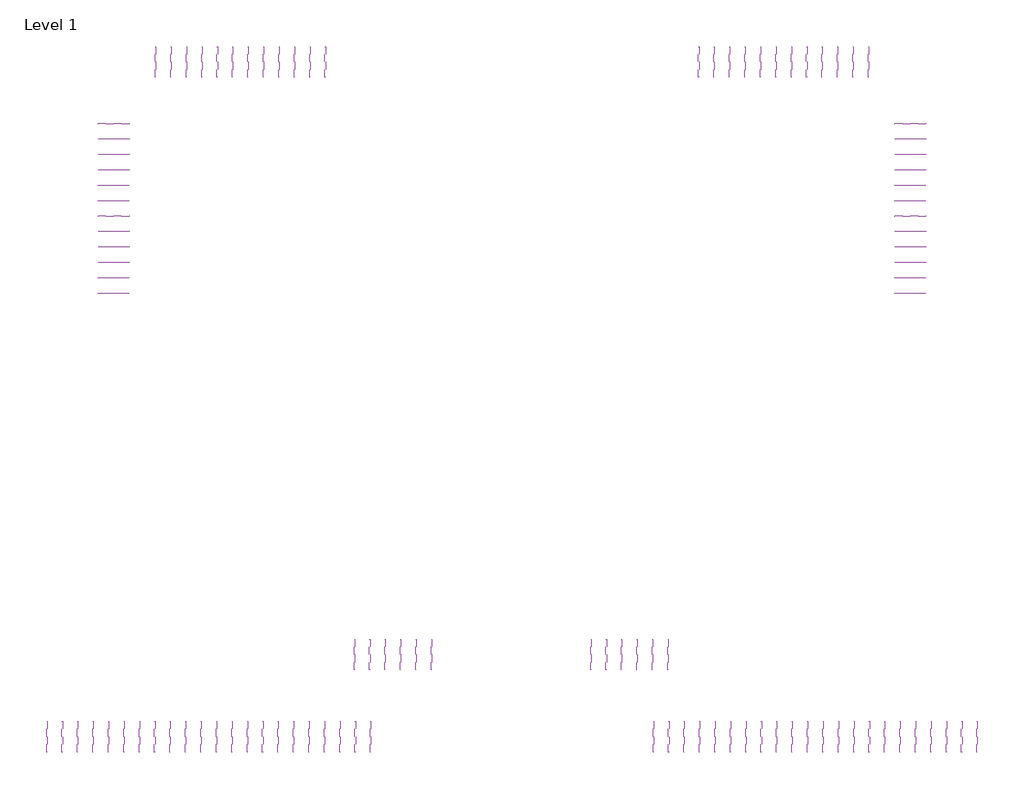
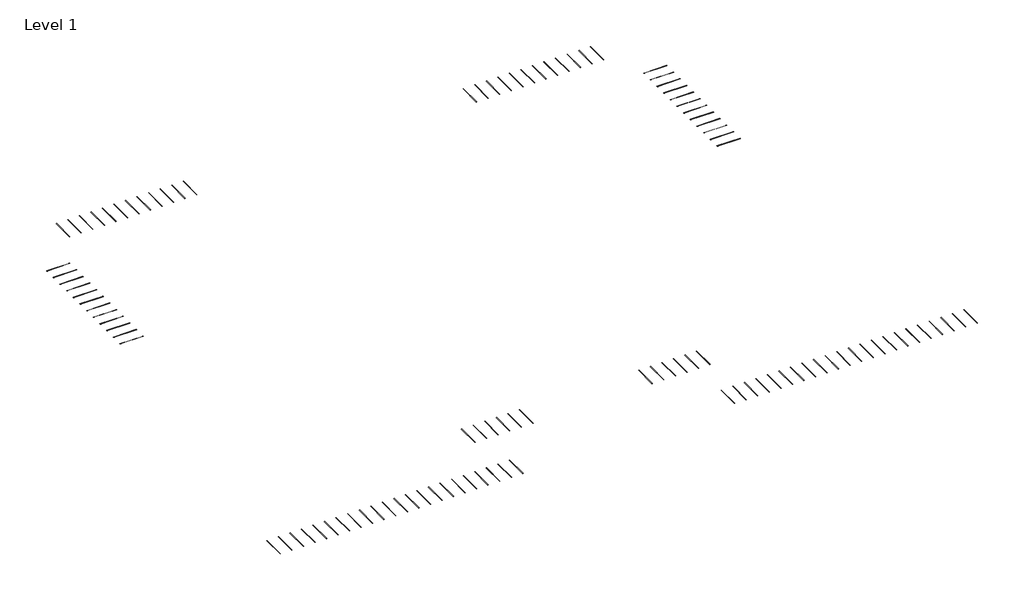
# One storey: 104 proxies.
"""IFC4 building model written with IfcOpenShell, lengths in millimetres."""

from ifc_helpers import new_model, si_unit, origin, place, context, project, spatial, transform, mapped, element, save
from components import parking_space_9_x_18_90_deg_9fe051ab, parking_space_9_x_18_90_deg_b8b21359

model = new_model("IFC4")

# Units and contexts
model_context = context("Model", 3, world=origin())
ifc_project = project(units=[si_unit("LENGTHUNIT", "METRE", prefix="MILLI")], contexts=[model_context])

# Site, building, storey
site = spatial("IfcSite", under=ifc_project)
building = spatial("IfcBuilding", under=site)
storey = spatial("IfcBuildingStorey", under=building, Name="Level 1", Elevation=0.0)

# Proxies
placement = place(None, origin())
parking_space_9_x_18_90_deg_shape = parking_space_9_x_18_90_deg_9fe051ab(model_context)
element("IfcBuildingElementProxy", 1, Name="Parking Space : 9' x 18' - 90 deg", ObjectType="Parking Space : 9' x 18' - 90 deg", at=placement, inside=storey, context=model_context, shape_type="MappedRepresentation", body=[
    mapped(parking_space_9_x_18_90_deg_shape, transform((-65226.6699122, -136687.5218987, 3048.7803686), x_axis=(-1.0, 0.0, 0.0), y_axis=(0.0, -1.0, 0.0), z_axis=(0.0, 0.0, 1.0))),
])
element("IfcBuildingElementProxy", 2, Name="Parking Space : 9' x 18' - 90 deg", ObjectType="Parking Space : 9' x 18' - 90 deg", at=placement, inside=storey, context=model_context, shape_type="MappedRepresentation", body=[
    mapped(parking_space_9_x_18_90_deg_shape, transform((-62483.4699122, -136687.5218987, 3048.7803686), x_axis=(-1.0, 0.0, 0.0), y_axis=(0.0, -1.0, 0.0), z_axis=(0.0, 0.0, 1.0))),
])
element("IfcBuildingElementProxy", 3, Name="Parking Space : 9' x 18' - 90 deg", ObjectType="Parking Space : 9' x 18' - 90 deg", at=placement, inside=storey, context=model_context, shape_type="MappedRepresentation", body=[
    mapped(parking_space_9_x_18_90_deg_shape, transform((-59740.2699122, -136687.5218987, 3048.7803686), x_axis=(-1.0, 0.0, 0.0), y_axis=(0.0, -1.0, 0.0), z_axis=(0.0, 0.0, 1.0))),
])
element("IfcBuildingElementProxy", 4, Name="Parking Space : 9' x 18' - 90 deg", ObjectType="Parking Space : 9' x 18' - 90 deg", at=placement, inside=storey, context=model_context, shape_type="MappedRepresentation", body=[
    mapped(parking_space_9_x_18_90_deg_shape, transform((-56997.0699122, -136687.5218987, 3048.7803686), x_axis=(-1.0, 0.0, 0.0), y_axis=(0.0, -1.0, 0.0), z_axis=(0.0, 0.0, 1.0))),
])
element("IfcBuildingElementProxy", 5, Name="Parking Space : 9' x 18' - 90 deg", ObjectType="Parking Space : 9' x 18' - 90 deg", at=placement, inside=storey, context=model_context, shape_type="MappedRepresentation", body=[
    mapped(parking_space_9_x_18_90_deg_shape, transform((-54253.8699122, -136687.5218987, 3048.7803686), x_axis=(-1.0, 0.0, 0.0), y_axis=(0.0, -1.0, 0.0), z_axis=(0.0, 0.0, 1.0))),
])
element("IfcBuildingElementProxy", 6, Name="Parking Space : 9' x 18' - 90 deg", ObjectType="Parking Space : 9' x 18' - 90 deg", at=placement, inside=storey, context=model_context, shape_type="MappedRepresentation", body=[
    mapped(parking_space_9_x_18_90_deg_shape, transform((-51510.6699122, -136687.5218987, 3048.7803686), x_axis=(-1.0, 0.0, 0.0), y_axis=(0.0, -1.0, 0.0), z_axis=(0.0, 0.0, 1.0))),
])
element("IfcBuildingElementProxy", 7, Name="Parking Space : 9' x 18' - 90 deg", ObjectType="Parking Space : 9' x 18' - 90 deg", at=placement, inside=storey, context=model_context, shape_type="MappedRepresentation", body=[
    mapped(parking_space_9_x_18_90_deg_shape, transform((-48767.4699122, -136687.5218987, 3048.7803686), x_axis=(-1.0, 0.0, 0.0), y_axis=(0.0, -1.0, 0.0), z_axis=(0.0, 0.0, 1.0))),
])
element("IfcBuildingElementProxy", 8, Name="Parking Space : 9' x 18' - 90 deg", ObjectType="Parking Space : 9' x 18' - 90 deg", at=placement, inside=storey, context=model_context, shape_type="MappedRepresentation", body=[
    mapped(parking_space_9_x_18_90_deg_shape, transform((-46024.2699122, -136687.5218987, 3048.7803686), x_axis=(-1.0, 0.0, 0.0), y_axis=(0.0, -1.0, 0.0), z_axis=(0.0, 0.0, 1.0))),
])
element("IfcBuildingElementProxy", 9, Name="Parking Space : 9' x 18' - 90 deg", ObjectType="Parking Space : 9' x 18' - 90 deg", at=placement, inside=storey, context=model_context, shape_type="MappedRepresentation", body=[
    mapped(parking_space_9_x_18_90_deg_shape, transform((-43281.0699122, -136687.5218987, 3048.7803686), x_axis=(-1.0, 0.0, 0.0), y_axis=(0.0, -1.0, 0.0), z_axis=(0.0, 0.0, 1.0))),
])
element("IfcBuildingElementProxy", 10, Name="Parking Space : 9' x 18' - 90 deg", ObjectType="Parking Space : 9' x 18' - 90 deg", at=placement, inside=storey, context=model_context, shape_type="MappedRepresentation", body=[
    mapped(parking_space_9_x_18_90_deg_shape, transform((-40537.8699122, -136687.5218987, 3048.7803686), x_axis=(-1.0, 0.0, 0.0), y_axis=(0.0, -1.0, 0.0), z_axis=(0.0, 0.0, 1.0))),
])
element("IfcBuildingElementProxy", 11, Name="Parking Space : 9' x 18' - 90 deg", ObjectType="Parking Space : 9' x 18' - 90 deg", at=placement, inside=storey, context=model_context, shape_type="MappedRepresentation", body=[
    mapped(parking_space_9_x_18_90_deg_shape, transform((-37794.6699122, -136687.5218987, 3048.7803686), x_axis=(-1.0, 0.0, 0.0), y_axis=(0.0, -1.0, 0.0), z_axis=(0.0, 0.0, 1.0))),
])
element("IfcBuildingElementProxy", 12, Name="Parking Space : 9' x 18' - 90 deg", ObjectType="Parking Space : 9' x 18' - 90 deg", at=placement, inside=storey, context=model_context, shape_type="MappedRepresentation", body=[
    mapped(parking_space_9_x_18_90_deg_shape, transform((-35051.4699122, -136687.5218987, 3048.7803686), x_axis=(-1.0, 0.0, 0.0), y_axis=(0.0, -1.0, 0.0), z_axis=(0.0, 0.0, 1.0))),
])
element("IfcBuildingElementProxy", 13, Name="Parking Space : 9' x 18' - 90 deg", ObjectType="Parking Space : 9' x 18' - 90 deg", at=placement, inside=storey, context=model_context, shape_type="MappedRepresentation", body=[
    mapped(parking_space_9_x_18_90_deg_shape, transform((-32308.2699122, -136687.5218987, 3048.7803686), x_axis=(-1.0, 0.0, 0.0), y_axis=(0.0, -1.0, 0.0), z_axis=(0.0, 0.0, 1.0))),
])
element("IfcBuildingElementProxy", 14, Name="Parking Space : 9' x 18' - 90 deg", ObjectType="Parking Space : 9' x 18' - 90 deg", at=placement, inside=storey, context=model_context, shape_type="MappedRepresentation", body=[
    mapped(parking_space_9_x_18_90_deg_shape, transform((-29565.0699122, -136687.5218987, 3048.7803686), x_axis=(-1.0, 0.0, 0.0), y_axis=(0.0, -1.0, 0.0), z_axis=(0.0, 0.0, 1.0))),
])
element("IfcBuildingElementProxy", 15, Name="Parking Space : 9' x 18' - 90 deg", ObjectType="Parking Space : 9' x 18' - 90 deg", at=placement, inside=storey, context=model_context, shape_type="MappedRepresentation", body=[
    mapped(parking_space_9_x_18_90_deg_shape, transform((-26821.8699122, -136687.5218987, 3048.7803686), x_axis=(-1.0, 0.0, 0.0), y_axis=(0.0, -1.0, 0.0), z_axis=(0.0, 0.0, 1.0))),
])
element("IfcBuildingElementProxy", 16, Name="Parking Space : 9' x 18' - 90 deg", ObjectType="Parking Space : 9' x 18' - 90 deg", at=placement, inside=storey, context=model_context, shape_type="MappedRepresentation", body=[
    mapped(parking_space_9_x_18_90_deg_shape, transform((-24078.6699122, -136687.5218987, 3048.7803686), x_axis=(-1.0, 0.0, 0.0), y_axis=(0.0, -1.0, 0.0), z_axis=(0.0, 0.0, 1.0))),
])
element("IfcBuildingElementProxy", 17, Name="Parking Space : 9' x 18' - 90 deg", ObjectType="Parking Space : 9' x 18' - 90 deg", at=placement, inside=storey, context=model_context, shape_type="MappedRepresentation", body=[
    mapped(parking_space_9_x_18_90_deg_shape, transform((-21335.4699122, -136687.5218987, 3048.7803686), x_axis=(-1.0, 0.0, 0.0), y_axis=(0.0, -1.0, 0.0), z_axis=(0.0, 0.0, 1.0))),
])
element("IfcBuildingElementProxy", 18, Name="Parking Space : 9' x 18' - 90 deg", ObjectType="Parking Space : 9' x 18' - 90 deg", at=placement, inside=storey, context=model_context, shape_type="MappedRepresentation", body=[
    mapped(parking_space_9_x_18_90_deg_shape, transform((-18592.2699122, -136687.5218987, 3048.7803686), x_axis=(-1.0, 0.0, 0.0), y_axis=(0.0, -1.0, 0.0), z_axis=(0.0, 0.0, 1.0))),
])
element("IfcBuildingElementProxy", 19, Name="Parking Space : 9' x 18' - 90 deg", ObjectType="Parking Space : 9' x 18' - 90 deg", at=placement, inside=storey, context=model_context, shape_type="MappedRepresentation", body=[
    mapped(parking_space_9_x_18_90_deg_shape, transform((-15849.0699122, -136687.5218987, 3048.7803686), x_axis=(-1.0, 0.0, 0.0), y_axis=(0.0, -1.0, 0.0), z_axis=(0.0, 0.0, 1.0))),
])
element("IfcBuildingElementProxy", 20, Name="Parking Space : 9' x 18' - 90 deg", ObjectType="Parking Space : 9' x 18' - 90 deg", at=placement, inside=storey, context=model_context, shape_type="MappedRepresentation", body=[
    mapped(parking_space_9_x_18_90_deg_shape, transform((-13105.8699122, -136687.5218987, 3048.7803686), x_axis=(-1.0, 0.0, 0.0), y_axis=(0.0, -1.0, 0.0), z_axis=(0.0, 0.0, 1.0))),
])
element("IfcBuildingElementProxy", 21, Name="Parking Space : 9' x 18' - 90 deg", ObjectType="Parking Space : 9' x 18' - 90 deg", at=placement, inside=storey, context=model_context, shape_type="MappedRepresentation", body=[
    mapped(parking_space_9_x_18_90_deg_shape, transform((-10362.6699122, -136687.5218987, 3048.7803686), x_axis=(-1.0, 0.0, 0.0), y_axis=(0.0, -1.0, 0.0), z_axis=(0.0, 0.0, 1.0))),
])
element("IfcBuildingElementProxy", 22, Name="Parking Space : 9' x 18' - 90 deg", ObjectType="Parking Space : 9' x 18' - 90 deg", at=placement, inside=storey, context=model_context, shape_type="MappedRepresentation", body=[
    mapped(parking_space_9_x_18_90_deg_shape, transform((-7619.4699122, -136687.5218987, 3048.7803686), x_axis=(-1.0, 0.0, 0.0), y_axis=(0.0, -1.0, 0.0), z_axis=(0.0, 0.0, 1.0))),
])
element("IfcBuildingElementProxy", 23, Name="Parking Space : 9' x 18' - 90 deg", ObjectType="Parking Space : 9' x 18' - 90 deg", at=placement, inside=storey, context=model_context, shape_type="MappedRepresentation", body=[
    mapped(parking_space_9_x_18_90_deg_shape, transform((-16753.158026, -60487.5218987, 3048.7803686), x_axis=(0.0, 1.0, 0.0), y_axis=(-1.0, 0.0, 0.0), z_axis=(0.0, 0.0, 1.0))),
])
element("IfcBuildingElementProxy", 24, Name="Parking Space : 9' x 18' - 90 deg", ObjectType="Parking Space : 9' x 18' - 90 deg", at=placement, inside=storey, context=model_context, shape_type="MappedRepresentation", body=[
    mapped(parking_space_9_x_18_90_deg_shape, transform((-16753.158026, -57744.3218987, 3048.7803686), x_axis=(0.0, 1.0, 0.0), y_axis=(-1.0, 0.0, 0.0), z_axis=(0.0, 0.0, 1.0))),
])
element("IfcBuildingElementProxy", 25, Name="Parking Space : 9' x 18' - 90 deg", ObjectType="Parking Space : 9' x 18' - 90 deg", at=placement, inside=storey, context=model_context, shape_type="MappedRepresentation", body=[
    mapped(parking_space_9_x_18_90_deg_shape, transform((-16753.158026, -55001.1218987, 3048.7803686), x_axis=(0.0, 1.0, 0.0), y_axis=(-1.0, 0.0, 0.0), z_axis=(0.0, 0.0, 1.0))),
])
element("IfcBuildingElementProxy", 26, Name="Parking Space : 9' x 18' - 90 deg", ObjectType="Parking Space : 9' x 18' - 90 deg", at=placement, inside=storey, context=model_context, shape_type="MappedRepresentation", body=[
    mapped(parking_space_9_x_18_90_deg_shape, transform((-16753.158026, -52257.9218987, 3048.7803686), x_axis=(0.0, 1.0, 0.0), y_axis=(-1.0, 0.0, 0.0), z_axis=(0.0, 0.0, 1.0))),
])
element("IfcBuildingElementProxy", 27, Name="Parking Space : 9' x 18' - 90 deg", ObjectType="Parking Space : 9' x 18' - 90 deg", at=placement, inside=storey, context=model_context, shape_type="MappedRepresentation", body=[
    mapped(parking_space_9_x_18_90_deg_shape, transform((-16753.158026, -49514.7218987, 3048.7803686), x_axis=(0.0, 1.0, 0.0), y_axis=(-1.0, 0.0, 0.0), z_axis=(0.0, 0.0, 1.0))),
])
element("IfcBuildingElementProxy", 28, Name="Parking Space : 9' x 18' - 90 deg", ObjectType="Parking Space : 9' x 18' - 90 deg", at=placement, inside=storey, context=model_context, shape_type="MappedRepresentation", body=[
    mapped(parking_space_9_x_18_90_deg_shape, transform((-16753.158026, -46771.5218987, 3048.7803686), x_axis=(0.0, 1.0, 0.0), y_axis=(-1.0, 0.0, 0.0), z_axis=(0.0, 0.0, 1.0))),
])
element("IfcBuildingElementProxy", 29, Name="Parking Space : 9' x 18' - 90 deg", ObjectType="Parking Space : 9' x 18' - 90 deg", at=placement, inside=storey, context=model_context, shape_type="MappedRepresentation", body=[
    mapped(parking_space_9_x_18_90_deg_shape, transform((-16753.158026, -44028.3218987, 3048.7803686), x_axis=(0.0, 1.0, 0.0), y_axis=(-1.0, 0.0, 0.0), z_axis=(0.0, 0.0, 1.0))),
])
element("IfcBuildingElementProxy", 30, Name="Parking Space : 9' x 18' - 90 deg", ObjectType="Parking Space : 9' x 18' - 90 deg", at=placement, inside=storey, context=model_context, shape_type="MappedRepresentation", body=[
    mapped(parking_space_9_x_18_90_deg_shape, transform((-16753.158026, -41285.1218987, 3048.7803686), x_axis=(0.0, 1.0, 0.0), y_axis=(-1.0, 0.0, 0.0), z_axis=(0.0, 0.0, 1.0))),
])
element("IfcBuildingElementProxy", 31, Name="Parking Space : 9' x 18' - 90 deg", ObjectType="Parking Space : 9' x 18' - 90 deg", at=placement, inside=storey, context=model_context, shape_type="MappedRepresentation", body=[
    mapped(parking_space_9_x_18_90_deg_shape, transform((-16753.158026, -38541.9218987, 3048.7803686), x_axis=(0.0, 1.0, 0.0), y_axis=(-1.0, 0.0, 0.0), z_axis=(0.0, 0.0, 1.0))),
])
element("IfcBuildingElementProxy", 32, Name="Parking Space : 9' x 18' - 90 deg", ObjectType="Parking Space : 9' x 18' - 90 deg", at=placement, inside=storey, context=model_context, shape_type="MappedRepresentation", body=[
    mapped(parking_space_9_x_18_90_deg_shape, transform((-16753.158026, -35798.7218987, 3048.7803686), x_axis=(0.0, 1.0, 0.0), y_axis=(-1.0, 0.0, 0.0), z_axis=(0.0, 0.0, 1.0))),
])
element("IfcBuildingElementProxy", 33, Name="Parking Space : 9' x 18' - 90 deg", ObjectType="Parking Space : 9' x 18' - 90 deg", at=placement, inside=storey, context=model_context, shape_type="MappedRepresentation", body=[
    mapped(parking_space_9_x_18_90_deg_shape, transform((-16753.158026, -33055.5218987, 3048.7803686), x_axis=(0.0, 1.0, 0.0), y_axis=(-1.0, 0.0, 0.0), z_axis=(0.0, 0.0, 1.0))),
])
element("IfcBuildingElementProxy", 34, Name="Parking Space : 9' x 18' - 90 deg", ObjectType="Parking Space : 9' x 18' - 90 deg", at=placement, inside=storey, context=model_context, shape_type="MappedRepresentation", body=[
    mapped(parking_space_9_x_18_90_deg_shape, transform((-16753.158026, -30312.3218987, 3048.7803686), x_axis=(0.0, 1.0, 0.0), y_axis=(-1.0, 0.0, 0.0), z_axis=(0.0, 0.0, 1.0))),
])
element("IfcBuildingElementProxy", 35, Name="Parking Space : 9' x 18' - 90 deg", ObjectType="Parking Space : 9' x 18' - 90 deg", at=placement, inside=storey, context=model_context, shape_type="MappedRepresentation", body=[
    mapped(parking_space_9_x_18_90_deg_shape, transform((-57139.158026, -16581.4741332, 3048.7803686), x_axis=(-1.0, 0.0, 0.0), y_axis=(0.0, -1.0, 0.0), z_axis=(0.0, 0.0, 1.0))),
])
element("IfcBuildingElementProxy", 36, Name="Parking Space : 9' x 18' - 90 deg", ObjectType="Parking Space : 9' x 18' - 90 deg", at=placement, inside=storey, context=model_context, shape_type="MappedRepresentation", body=[
    mapped(parking_space_9_x_18_90_deg_shape, transform((-54395.958026, -16581.4741332, 3048.7803686), x_axis=(-1.0, 0.0, 0.0), y_axis=(0.0, -1.0, 0.0), z_axis=(0.0, 0.0, 1.0))),
])
element("IfcBuildingElementProxy", 37, Name="Parking Space : 9' x 18' - 90 deg", ObjectType="Parking Space : 9' x 18' - 90 deg", at=placement, inside=storey, context=model_context, shape_type="MappedRepresentation", body=[
    mapped(parking_space_9_x_18_90_deg_shape, transform((-51652.758026, -16581.4741332, 3048.7803686), x_axis=(-1.0, 0.0, 0.0), y_axis=(0.0, -1.0, 0.0), z_axis=(0.0, 0.0, 1.0))),
])
element("IfcBuildingElementProxy", 38, Name="Parking Space : 9' x 18' - 90 deg", ObjectType="Parking Space : 9' x 18' - 90 deg", at=placement, inside=storey, context=model_context, shape_type="MappedRepresentation", body=[
    mapped(parking_space_9_x_18_90_deg_shape, transform((-48909.558026, -16581.4741332, 3048.7803686), x_axis=(-1.0, 0.0, 0.0), y_axis=(0.0, -1.0, 0.0), z_axis=(0.0, 0.0, 1.0))),
])
element("IfcBuildingElementProxy", 39, Name="Parking Space : 9' x 18' - 90 deg", ObjectType="Parking Space : 9' x 18' - 90 deg", at=placement, inside=storey, context=model_context, shape_type="MappedRepresentation", body=[
    mapped(parking_space_9_x_18_90_deg_shape, transform((-46166.358026, -16581.4741332, 3048.7803686), x_axis=(-1.0, 0.0, 0.0), y_axis=(0.0, -1.0, 0.0), z_axis=(0.0, 0.0, 1.0))),
])
element("IfcBuildingElementProxy", 40, Name="Parking Space : 9' x 18' - 90 deg", ObjectType="Parking Space : 9' x 18' - 90 deg", at=placement, inside=storey, context=model_context, shape_type="MappedRepresentation", body=[
    mapped(parking_space_9_x_18_90_deg_shape, transform((-43423.158026, -16581.4741332, 3048.7803686), x_axis=(-1.0, 0.0, 0.0), y_axis=(0.0, -1.0, 0.0), z_axis=(0.0, 0.0, 1.0))),
])
element("IfcBuildingElementProxy", 41, Name="Parking Space : 9' x 18' - 90 deg", ObjectType="Parking Space : 9' x 18' - 90 deg", at=placement, inside=storey, context=model_context, shape_type="MappedRepresentation", body=[
    mapped(parking_space_9_x_18_90_deg_shape, transform((-40679.958026, -16581.4741332, 3048.7803686), x_axis=(-1.0, 0.0, 0.0), y_axis=(0.0, -1.0, 0.0), z_axis=(0.0, 0.0, 1.0))),
])
element("IfcBuildingElementProxy", 42, Name="Parking Space : 9' x 18' - 90 deg", ObjectType="Parking Space : 9' x 18' - 90 deg", at=placement, inside=storey, context=model_context, shape_type="MappedRepresentation", body=[
    mapped(parking_space_9_x_18_90_deg_shape, transform((-37936.758026, -16581.4741332, 3048.7803686), x_axis=(-1.0, 0.0, 0.0), y_axis=(0.0, -1.0, 0.0), z_axis=(0.0, 0.0, 1.0))),
])
element("IfcBuildingElementProxy", 43, Name="Parking Space : 9' x 18' - 90 deg", ObjectType="Parking Space : 9' x 18' - 90 deg", at=placement, inside=storey, context=model_context, shape_type="MappedRepresentation", body=[
    mapped(parking_space_9_x_18_90_deg_shape, transform((-35193.558026, -16581.4741332, 3048.7803686), x_axis=(-1.0, 0.0, 0.0), y_axis=(0.0, -1.0, 0.0), z_axis=(0.0, 0.0, 1.0))),
])
element("IfcBuildingElementProxy", 44, Name="Parking Space : 9' x 18' - 90 deg", ObjectType="Parking Space : 9' x 18' - 90 deg", at=placement, inside=storey, context=model_context, shape_type="MappedRepresentation", body=[
    mapped(parking_space_9_x_18_90_deg_shape, transform((-32450.358026, -16581.4741332, 3048.7803686), x_axis=(-1.0, 0.0, 0.0), y_axis=(0.0, -1.0, 0.0), z_axis=(0.0, 0.0, 1.0))),
])
element("IfcBuildingElementProxy", 45, Name="Parking Space : 9' x 18' - 90 deg", ObjectType="Parking Space : 9' x 18' - 90 deg", at=placement, inside=storey, context=model_context, shape_type="MappedRepresentation", body=[
    mapped(parking_space_9_x_18_90_deg_shape, transform((-29707.158026, -16581.4741332, 3048.7803686), x_axis=(-1.0, 0.0, 0.0), y_axis=(0.0, -1.0, 0.0), z_axis=(0.0, 0.0, 1.0))),
])
element("IfcBuildingElementProxy", 46, Name="Parking Space : 9' x 18' - 90 deg", ObjectType="Parking Space : 9' x 18' - 90 deg", at=placement, inside=storey, context=model_context, shape_type="MappedRepresentation", body=[
    mapped(parking_space_9_x_18_90_deg_shape, transform((-26963.958026, -16581.4741332, 3048.7803686), x_axis=(-1.0, 0.0, 0.0), y_axis=(0.0, -1.0, 0.0), z_axis=(0.0, 0.0, 1.0))),
])
parking_space_9_x_18_90_deg_2_shape = parking_space_9_x_18_90_deg_b8b21359(model_context)
element("IfcBuildingElementProxy", 47, Name="Parking Space : 9' x 18' - 90 deg", ObjectType="Parking Space : 9' x 18' - 90 deg", at=placement, inside=storey, context=model_context, shape_type="MappedRepresentation", body=[
    mapped(parking_space_9_x_18_90_deg_2_shape, transform((-104687.958026, -122057.1218987, 3048.7803686), x_axis=(1.0, 0.0, 0.0), y_axis=(0.0, 1.0, 0.0), z_axis=(0.0, 0.0, 1.0))),
])
element("IfcBuildingElementProxy", 48, Name="Parking Space : 9' x 18' - 90 deg", ObjectType="Parking Space : 9' x 18' - 90 deg", at=placement, inside=storey, context=model_context, shape_type="MappedRepresentation", body=[
    mapped(parking_space_9_x_18_90_deg_2_shape, transform((-115498.0461398, -136687.5218987, 3048.7803686), x_axis=(1.0, 0.0, 0.0), y_axis=(0.0, 1.0, 0.0), z_axis=(0.0, 0.0, 1.0))),
])
element("IfcBuildingElementProxy", 49, Name="Parking Space : 9' x 18' - 90 deg", ObjectType="Parking Space : 9' x 18' - 90 deg", at=placement, inside=storey, context=model_context, shape_type="MappedRepresentation", body=[
    mapped(parking_space_9_x_18_90_deg_2_shape, transform((-118241.2461398, -136687.5218987, 3048.7803686), x_axis=(1.0, 0.0, 0.0), y_axis=(0.0, 1.0, 0.0), z_axis=(0.0, 0.0, 1.0))),
])
element("IfcBuildingElementProxy", 50, Name="Parking Space : 9' x 18' - 90 deg", ObjectType="Parking Space : 9' x 18' - 90 deg", at=placement, inside=storey, context=model_context, shape_type="MappedRepresentation", body=[
    mapped(parking_space_9_x_18_90_deg_2_shape, transform((-120984.4461398, -136687.5218987, 3048.7803686), x_axis=(1.0, 0.0, 0.0), y_axis=(0.0, 1.0, 0.0), z_axis=(0.0, 0.0, 1.0))),
])
element("IfcBuildingElementProxy", 51, Name="Parking Space : 9' x 18' - 90 deg", ObjectType="Parking Space : 9' x 18' - 90 deg", at=placement, inside=storey, context=model_context, shape_type="MappedRepresentation", body=[
    mapped(parking_space_9_x_18_90_deg_2_shape, transform((-123727.6461398, -136687.5218987, 3048.7803686), x_axis=(1.0, 0.0, 0.0), y_axis=(0.0, 1.0, 0.0), z_axis=(0.0, 0.0, 1.0))),
])
element("IfcBuildingElementProxy", 52, Name="Parking Space : 9' x 18' - 90 deg", ObjectType="Parking Space : 9' x 18' - 90 deg", at=placement, inside=storey, context=model_context, shape_type="MappedRepresentation", body=[
    mapped(parking_space_9_x_18_90_deg_2_shape, transform((-126470.8461398, -136687.5218987, 3048.7803686), x_axis=(1.0, 0.0, 0.0), y_axis=(0.0, 1.0, 0.0), z_axis=(0.0, 0.0, 1.0))),
])
element("IfcBuildingElementProxy", 53, Name="Parking Space : 9' x 18' - 90 deg", ObjectType="Parking Space : 9' x 18' - 90 deg", at=placement, inside=storey, context=model_context, shape_type="MappedRepresentation", body=[
    mapped(parking_space_9_x_18_90_deg_2_shape, transform((-129214.0461398, -136687.5218987, 3048.7803686), x_axis=(1.0, 0.0, 0.0), y_axis=(0.0, 1.0, 0.0), z_axis=(0.0, 0.0, 1.0))),
])
element("IfcBuildingElementProxy", 54, Name="Parking Space : 9' x 18' - 90 deg", ObjectType="Parking Space : 9' x 18' - 90 deg", at=placement, inside=storey, context=model_context, shape_type="MappedRepresentation", body=[
    mapped(parking_space_9_x_18_90_deg_2_shape, transform((-131957.2461398, -136687.5218987, 3048.7803686), x_axis=(1.0, 0.0, 0.0), y_axis=(0.0, 1.0, 0.0), z_axis=(0.0, 0.0, 1.0))),
])
element("IfcBuildingElementProxy", 55, Name="Parking Space : 9' x 18' - 90 deg", ObjectType="Parking Space : 9' x 18' - 90 deg", at=placement, inside=storey, context=model_context, shape_type="MappedRepresentation", body=[
    mapped(parking_space_9_x_18_90_deg_2_shape, transform((-134700.4461398, -136687.5218987, 3048.7803686), x_axis=(1.0, 0.0, 0.0), y_axis=(0.0, 1.0, 0.0), z_axis=(0.0, 0.0, 1.0))),
])
element("IfcBuildingElementProxy", 56, Name="Parking Space : 9' x 18' - 90 deg", ObjectType="Parking Space : 9' x 18' - 90 deg", at=placement, inside=storey, context=model_context, shape_type="MappedRepresentation", body=[
    mapped(parking_space_9_x_18_90_deg_2_shape, transform((-137443.6461398, -136687.5218987, 3048.7803686), x_axis=(1.0, 0.0, 0.0), y_axis=(0.0, 1.0, 0.0), z_axis=(0.0, 0.0, 1.0))),
])
element("IfcBuildingElementProxy", 57, Name="Parking Space : 9' x 18' - 90 deg", ObjectType="Parking Space : 9' x 18' - 90 deg", at=placement, inside=storey, context=model_context, shape_type="MappedRepresentation", body=[
    mapped(parking_space_9_x_18_90_deg_2_shape, transform((-140186.8461398, -136687.5218987, 3048.7803686), x_axis=(1.0, 0.0, 0.0), y_axis=(0.0, 1.0, 0.0), z_axis=(0.0, 0.0, 1.0))),
])
element("IfcBuildingElementProxy", 58, Name="Parking Space : 9' x 18' - 90 deg", ObjectType="Parking Space : 9' x 18' - 90 deg", at=placement, inside=storey, context=model_context, shape_type="MappedRepresentation", body=[
    mapped(parking_space_9_x_18_90_deg_2_shape, transform((-142930.0461398, -136687.5218987, 3048.7803686), x_axis=(1.0, 0.0, 0.0), y_axis=(0.0, 1.0, 0.0), z_axis=(0.0, 0.0, 1.0))),
])
element("IfcBuildingElementProxy", 59, Name="Parking Space : 9' x 18' - 90 deg", ObjectType="Parking Space : 9' x 18' - 90 deg", at=placement, inside=storey, context=model_context, shape_type="MappedRepresentation", body=[
    mapped(parking_space_9_x_18_90_deg_2_shape, transform((-145673.2461398, -136687.5218987, 3048.7803686), x_axis=(1.0, 0.0, 0.0), y_axis=(0.0, 1.0, 0.0), z_axis=(0.0, 0.0, 1.0))),
])
element("IfcBuildingElementProxy", 60, Name="Parking Space : 9' x 18' - 90 deg", ObjectType="Parking Space : 9' x 18' - 90 deg", at=placement, inside=storey, context=model_context, shape_type="MappedRepresentation", body=[
    mapped(parking_space_9_x_18_90_deg_2_shape, transform((-148416.4461398, -136687.5218987, 3048.7803686), x_axis=(1.0, 0.0, 0.0), y_axis=(0.0, 1.0, 0.0), z_axis=(0.0, 0.0, 1.0))),
])
element("IfcBuildingElementProxy", 61, Name="Parking Space : 9' x 18' - 90 deg", ObjectType="Parking Space : 9' x 18' - 90 deg", at=placement, inside=storey, context=model_context, shape_type="MappedRepresentation", body=[
    mapped(parking_space_9_x_18_90_deg_2_shape, transform((-151159.6461398, -136687.5218987, 3048.7803686), x_axis=(1.0, 0.0, 0.0), y_axis=(0.0, 1.0, 0.0), z_axis=(0.0, 0.0, 1.0))),
])
element("IfcBuildingElementProxy", 62, Name="Parking Space : 9' x 18' - 90 deg", ObjectType="Parking Space : 9' x 18' - 90 deg", at=placement, inside=storey, context=model_context, shape_type="MappedRepresentation", body=[
    mapped(parking_space_9_x_18_90_deg_2_shape, transform((-153902.8461398, -136687.5218987, 3048.7803686), x_axis=(1.0, 0.0, 0.0), y_axis=(0.0, 1.0, 0.0), z_axis=(0.0, 0.0, 1.0))),
])
element("IfcBuildingElementProxy", 63, Name="Parking Space : 9' x 18' - 90 deg", ObjectType="Parking Space : 9' x 18' - 90 deg", at=placement, inside=storey, context=model_context, shape_type="MappedRepresentation", body=[
    mapped(parking_space_9_x_18_90_deg_2_shape, transform((-156646.0461398, -136687.5218987, 3048.7803686), x_axis=(1.0, 0.0, 0.0), y_axis=(0.0, 1.0, 0.0), z_axis=(0.0, 0.0, 1.0))),
])
element("IfcBuildingElementProxy", 64, Name="Parking Space : 9' x 18' - 90 deg", ObjectType="Parking Space : 9' x 18' - 90 deg", at=placement, inside=storey, context=model_context, shape_type="MappedRepresentation", body=[
    mapped(parking_space_9_x_18_90_deg_2_shape, transform((-159389.2461398, -136687.5218987, 3048.7803686), x_axis=(1.0, 0.0, 0.0), y_axis=(0.0, 1.0, 0.0), z_axis=(0.0, 0.0, 1.0))),
])
element("IfcBuildingElementProxy", 65, Name="Parking Space : 9' x 18' - 90 deg", ObjectType="Parking Space : 9' x 18' - 90 deg", at=placement, inside=storey, context=model_context, shape_type="MappedRepresentation", body=[
    mapped(parking_space_9_x_18_90_deg_2_shape, transform((-162132.4461398, -136687.5218987, 3048.7803686), x_axis=(1.0, 0.0, 0.0), y_axis=(0.0, 1.0, 0.0), z_axis=(0.0, 0.0, 1.0))),
])
element("IfcBuildingElementProxy", 66, Name="Parking Space : 9' x 18' - 90 deg", ObjectType="Parking Space : 9' x 18' - 90 deg", at=placement, inside=storey, context=model_context, shape_type="MappedRepresentation", body=[
    mapped(parking_space_9_x_18_90_deg_2_shape, transform((-164875.6461398, -136687.5218987, 3048.7803686), x_axis=(1.0, 0.0, 0.0), y_axis=(0.0, 1.0, 0.0), z_axis=(0.0, 0.0, 1.0))),
])
element("IfcBuildingElementProxy", 67, Name="Parking Space : 9' x 18' - 90 deg", ObjectType="Parking Space : 9' x 18' - 90 deg", at=placement, inside=storey, context=model_context, shape_type="MappedRepresentation", body=[
    mapped(parking_space_9_x_18_90_deg_2_shape, transform((-167618.8461398, -136687.5218987, 3048.7803686), x_axis=(1.0, 0.0, 0.0), y_axis=(0.0, 1.0, 0.0), z_axis=(0.0, 0.0, 1.0))),
])
element("IfcBuildingElementProxy", 68, Name="Parking Space : 9' x 18' - 90 deg", ObjectType="Parking Space : 9' x 18' - 90 deg", at=placement, inside=storey, context=model_context, shape_type="MappedRepresentation", body=[
    mapped(parking_space_9_x_18_90_deg_2_shape, transform((-170362.0461398, -136687.5218987, 3048.7803686), x_axis=(1.0, 0.0, 0.0), y_axis=(0.0, 1.0, 0.0), z_axis=(0.0, 0.0, 1.0))),
])
element("IfcBuildingElementProxy", 69, Name="Parking Space : 9' x 18' - 90 deg", ObjectType="Parking Space : 9' x 18' - 90 deg", at=placement, inside=storey, context=model_context, shape_type="MappedRepresentation", body=[
    mapped(parking_space_9_x_18_90_deg_2_shape, transform((-173105.2461398, -136687.5218987, 3048.7803686), x_axis=(1.0, 0.0, 0.0), y_axis=(0.0, 1.0, 0.0), z_axis=(0.0, 0.0, 1.0))),
])
element("IfcBuildingElementProxy", 70, Name="Parking Space : 9' x 18' - 90 deg", ObjectType="Parking Space : 9' x 18' - 90 deg", at=placement, inside=storey, context=model_context, shape_type="MappedRepresentation", body=[
    mapped(parking_space_9_x_18_90_deg_2_shape, transform((-163971.558026, -60487.5218987, 3048.7803686), x_axis=(0.0, 1.0, 0.0), y_axis=(-1.0, 0.0, 0.0), z_axis=(0.0, 0.0, 1.0))),
])
element("IfcBuildingElementProxy", 71, Name="Parking Space : 9' x 18' - 90 deg", ObjectType="Parking Space : 9' x 18' - 90 deg", at=placement, inside=storey, context=model_context, shape_type="MappedRepresentation", body=[
    mapped(parking_space_9_x_18_90_deg_2_shape, transform((-163971.558026, -57744.3218987, 3048.7803686), x_axis=(0.0, 1.0, 0.0), y_axis=(-1.0, 0.0, 0.0), z_axis=(0.0, 0.0, 1.0))),
])
element("IfcBuildingElementProxy", 72, Name="Parking Space : 9' x 18' - 90 deg", ObjectType="Parking Space : 9' x 18' - 90 deg", at=placement, inside=storey, context=model_context, shape_type="MappedRepresentation", body=[
    mapped(parking_space_9_x_18_90_deg_2_shape, transform((-163971.558026, -55001.1218987, 3048.7803686), x_axis=(0.0, 1.0, 0.0), y_axis=(-1.0, 0.0, 0.0), z_axis=(0.0, 0.0, 1.0))),
])
element("IfcBuildingElementProxy", 73, Name="Parking Space : 9' x 18' - 90 deg", ObjectType="Parking Space : 9' x 18' - 90 deg", at=placement, inside=storey, context=model_context, shape_type="MappedRepresentation", body=[
    mapped(parking_space_9_x_18_90_deg_2_shape, transform((-163971.558026, -52257.9218987, 3048.7803686), x_axis=(0.0, 1.0, 0.0), y_axis=(-1.0, 0.0, 0.0), z_axis=(0.0, 0.0, 1.0))),
])
element("IfcBuildingElementProxy", 74, Name="Parking Space : 9' x 18' - 90 deg", ObjectType="Parking Space : 9' x 18' - 90 deg", at=placement, inside=storey, context=model_context, shape_type="MappedRepresentation", body=[
    mapped(parking_space_9_x_18_90_deg_2_shape, transform((-163971.558026, -49514.7218987, 3048.7803686), x_axis=(0.0, 1.0, 0.0), y_axis=(-1.0, 0.0, 0.0), z_axis=(0.0, 0.0, 1.0))),
])
element("IfcBuildingElementProxy", 75, Name="Parking Space : 9' x 18' - 90 deg", ObjectType="Parking Space : 9' x 18' - 90 deg", at=placement, inside=storey, context=model_context, shape_type="MappedRepresentation", body=[
    mapped(parking_space_9_x_18_90_deg_2_shape, transform((-163971.558026, -46771.5218987, 3048.7803686), x_axis=(0.0, 1.0, 0.0), y_axis=(-1.0, 0.0, 0.0), z_axis=(0.0, 0.0, 1.0))),
])
element("IfcBuildingElementProxy", 76, Name="Parking Space : 9' x 18' - 90 deg", ObjectType="Parking Space : 9' x 18' - 90 deg", at=placement, inside=storey, context=model_context, shape_type="MappedRepresentation", body=[
    mapped(parking_space_9_x_18_90_deg_2_shape, transform((-163971.558026, -44028.3218987, 3048.7803686), x_axis=(0.0, 1.0, 0.0), y_axis=(-1.0, 0.0, 0.0), z_axis=(0.0, 0.0, 1.0))),
])
element("IfcBuildingElementProxy", 77, Name="Parking Space : 9' x 18' - 90 deg", ObjectType="Parking Space : 9' x 18' - 90 deg", at=placement, inside=storey, context=model_context, shape_type="MappedRepresentation", body=[
    mapped(parking_space_9_x_18_90_deg_2_shape, transform((-163971.558026, -41285.1218987, 3048.7803686), x_axis=(0.0, 1.0, 0.0), y_axis=(-1.0, 0.0, 0.0), z_axis=(0.0, 0.0, 1.0))),
])
element("IfcBuildingElementProxy", 78, Name="Parking Space : 9' x 18' - 90 deg", ObjectType="Parking Space : 9' x 18' - 90 deg", at=placement, inside=storey, context=model_context, shape_type="MappedRepresentation", body=[
    mapped(parking_space_9_x_18_90_deg_2_shape, transform((-163971.558026, -38541.9218987, 3048.7803686), x_axis=(0.0, 1.0, 0.0), y_axis=(-1.0, 0.0, 0.0), z_axis=(0.0, 0.0, 1.0))),
])
element("IfcBuildingElementProxy", 79, Name="Parking Space : 9' x 18' - 90 deg", ObjectType="Parking Space : 9' x 18' - 90 deg", at=placement, inside=storey, context=model_context, shape_type="MappedRepresentation", body=[
    mapped(parking_space_9_x_18_90_deg_2_shape, transform((-163971.558026, -35798.7218987, 3048.7803686), x_axis=(0.0, 1.0, 0.0), y_axis=(-1.0, 0.0, 0.0), z_axis=(0.0, 0.0, 1.0))),
])
element("IfcBuildingElementProxy", 80, Name="Parking Space : 9' x 18' - 90 deg", ObjectType="Parking Space : 9' x 18' - 90 deg", at=placement, inside=storey, context=model_context, shape_type="MappedRepresentation", body=[
    mapped(parking_space_9_x_18_90_deg_2_shape, transform((-163971.558026, -33055.5218987, 3048.7803686), x_axis=(0.0, 1.0, 0.0), y_axis=(-1.0, 0.0, 0.0), z_axis=(0.0, 0.0, 1.0))),
])
element("IfcBuildingElementProxy", 81, Name="Parking Space : 9' x 18' - 90 deg", ObjectType="Parking Space : 9' x 18' - 90 deg", at=placement, inside=storey, context=model_context, shape_type="MappedRepresentation", body=[
    mapped(parking_space_9_x_18_90_deg_2_shape, transform((-163971.558026, -30312.3218987, 3048.7803686), x_axis=(0.0, 1.0, 0.0), y_axis=(-1.0, 0.0, 0.0), z_axis=(0.0, 0.0, 1.0))),
])
element("IfcBuildingElementProxy", 82, Name="Parking Space : 9' x 18' - 90 deg", ObjectType="Parking Space : 9' x 18' - 90 deg", at=placement, inside=storey, context=model_context, shape_type="MappedRepresentation", body=[
    mapped(parking_space_9_x_18_90_deg_2_shape, transform((-123585.558026, -16581.4741332, 3048.7803686), x_axis=(1.0, 0.0, 0.0), y_axis=(0.0, 1.0, 0.0), z_axis=(0.0, 0.0, 1.0))),
])
element("IfcBuildingElementProxy", 83, Name="Parking Space : 9' x 18' - 90 deg", ObjectType="Parking Space : 9' x 18' - 90 deg", at=placement, inside=storey, context=model_context, shape_type="MappedRepresentation", body=[
    mapped(parking_space_9_x_18_90_deg_2_shape, transform((-126328.758026, -16581.4741332, 3048.7803686), x_axis=(1.0, 0.0, 0.0), y_axis=(0.0, 1.0, 0.0), z_axis=(0.0, 0.0, 1.0))),
])
element("IfcBuildingElementProxy", 84, Name="Parking Space : 9' x 18' - 90 deg", ObjectType="Parking Space : 9' x 18' - 90 deg", at=placement, inside=storey, context=model_context, shape_type="MappedRepresentation", body=[
    mapped(parking_space_9_x_18_90_deg_2_shape, transform((-129071.958026, -16581.4741332, 3048.7803686), x_axis=(1.0, 0.0, 0.0), y_axis=(0.0, 1.0, 0.0), z_axis=(0.0, 0.0, 1.0))),
])
element("IfcBuildingElementProxy", 85, Name="Parking Space : 9' x 18' - 90 deg", ObjectType="Parking Space : 9' x 18' - 90 deg", at=placement, inside=storey, context=model_context, shape_type="MappedRepresentation", body=[
    mapped(parking_space_9_x_18_90_deg_2_shape, transform((-131815.158026, -16581.4741332, 3048.7803686), x_axis=(1.0, 0.0, 0.0), y_axis=(0.0, 1.0, 0.0), z_axis=(0.0, 0.0, 1.0))),
])
element("IfcBuildingElementProxy", 86, Name="Parking Space : 9' x 18' - 90 deg", ObjectType="Parking Space : 9' x 18' - 90 deg", at=placement, inside=storey, context=model_context, shape_type="MappedRepresentation", body=[
    mapped(parking_space_9_x_18_90_deg_2_shape, transform((-134558.358026, -16581.4741332, 3048.7803686), x_axis=(1.0, 0.0, 0.0), y_axis=(0.0, 1.0, 0.0), z_axis=(0.0, 0.0, 1.0))),
])
element("IfcBuildingElementProxy", 87, Name="Parking Space : 9' x 18' - 90 deg", ObjectType="Parking Space : 9' x 18' - 90 deg", at=placement, inside=storey, context=model_context, shape_type="MappedRepresentation", body=[
    mapped(parking_space_9_x_18_90_deg_2_shape, transform((-137301.558026, -16581.4741332, 3048.7803686), x_axis=(1.0, 0.0, 0.0), y_axis=(0.0, 1.0, 0.0), z_axis=(0.0, 0.0, 1.0))),
])
element("IfcBuildingElementProxy", 88, Name="Parking Space : 9' x 18' - 90 deg", ObjectType="Parking Space : 9' x 18' - 90 deg", at=placement, inside=storey, context=model_context, shape_type="MappedRepresentation", body=[
    mapped(parking_space_9_x_18_90_deg_2_shape, transform((-140044.758026, -16581.4741332, 3048.7803686), x_axis=(1.0, 0.0, 0.0), y_axis=(0.0, 1.0, 0.0), z_axis=(0.0, 0.0, 1.0))),
])
element("IfcBuildingElementProxy", 89, Name="Parking Space : 9' x 18' - 90 deg", ObjectType="Parking Space : 9' x 18' - 90 deg", at=placement, inside=storey, context=model_context, shape_type="MappedRepresentation", body=[
    mapped(parking_space_9_x_18_90_deg_2_shape, transform((-142787.958026, -16581.4741332, 3048.7803686), x_axis=(1.0, 0.0, 0.0), y_axis=(0.0, 1.0, 0.0), z_axis=(0.0, 0.0, 1.0))),
])
element("IfcBuildingElementProxy", 90, Name="Parking Space : 9' x 18' - 90 deg", ObjectType="Parking Space : 9' x 18' - 90 deg", at=placement, inside=storey, context=model_context, shape_type="MappedRepresentation", body=[
    mapped(parking_space_9_x_18_90_deg_2_shape, transform((-145531.158026, -16581.4741332, 3048.7803686), x_axis=(1.0, 0.0, 0.0), y_axis=(0.0, 1.0, 0.0), z_axis=(0.0, 0.0, 1.0))),
])
element("IfcBuildingElementProxy", 91, Name="Parking Space : 9' x 18' - 90 deg", ObjectType="Parking Space : 9' x 18' - 90 deg", at=placement, inside=storey, context=model_context, shape_type="MappedRepresentation", body=[
    mapped(parking_space_9_x_18_90_deg_2_shape, transform((-148274.358026, -16581.4741332, 3048.7803686), x_axis=(1.0, 0.0, 0.0), y_axis=(0.0, 1.0, 0.0), z_axis=(0.0, 0.0, 1.0))),
])
element("IfcBuildingElementProxy", 92, Name="Parking Space : 9' x 18' - 90 deg", ObjectType="Parking Space : 9' x 18' - 90 deg", at=placement, inside=storey, context=model_context, shape_type="MappedRepresentation", body=[
    mapped(parking_space_9_x_18_90_deg_2_shape, transform((-151017.558026, -16581.4741332, 3048.7803686), x_axis=(1.0, 0.0, 0.0), y_axis=(0.0, 1.0, 0.0), z_axis=(0.0, 0.0, 1.0))),
])
element("IfcBuildingElementProxy", 93, Name="Parking Space : 9' x 18' - 90 deg", ObjectType="Parking Space : 9' x 18' - 90 deg", at=placement, inside=storey, context=model_context, shape_type="MappedRepresentation", body=[
    mapped(parking_space_9_x_18_90_deg_2_shape, transform((-153760.758026, -16581.4741332, 3048.7803686), x_axis=(1.0, 0.0, 0.0), y_axis=(0.0, 1.0, 0.0), z_axis=(0.0, 0.0, 1.0))),
])
element("IfcBuildingElementProxy", 94, Name="Parking Space : 9' x 18' - 90 deg", ObjectType="Parking Space : 9' x 18' - 90 deg", at=placement, inside=storey, context=model_context, shape_type="MappedRepresentation", body=[
    mapped(parking_space_9_x_18_90_deg_2_shape, transform((-107431.158026, -122057.1218987, 3048.7803686), x_axis=(1.0, 0.0, 0.0), y_axis=(0.0, 1.0, 0.0), z_axis=(0.0, 0.0, 1.0))),
])
element("IfcBuildingElementProxy", 95, Name="Parking Space : 9' x 18' - 90 deg", ObjectType="Parking Space : 9' x 18' - 90 deg", at=placement, inside=storey, context=model_context, shape_type="MappedRepresentation", body=[
    mapped(parking_space_9_x_18_90_deg_2_shape, transform((-110174.358026, -122057.1218987, 3048.7803686), x_axis=(1.0, 0.0, 0.0), y_axis=(0.0, 1.0, 0.0), z_axis=(0.0, 0.0, 1.0))),
])
element("IfcBuildingElementProxy", 96, Name="Parking Space : 9' x 18' - 90 deg", ObjectType="Parking Space : 9' x 18' - 90 deg", at=placement, inside=storey, context=model_context, shape_type="MappedRepresentation", body=[
    mapped(parking_space_9_x_18_90_deg_2_shape, transform((-112917.558026, -122057.1218987, 3048.7803686), x_axis=(1.0, 0.0, 0.0), y_axis=(0.0, 1.0, 0.0), z_axis=(0.0, 0.0, 1.0))),
])
element("IfcBuildingElementProxy", 97, Name="Parking Space : 9' x 18' - 90 deg", ObjectType="Parking Space : 9' x 18' - 90 deg", at=placement, inside=storey, context=model_context, shape_type="MappedRepresentation", body=[
    mapped(parking_space_9_x_18_90_deg_2_shape, transform((-115660.758026, -122057.1218987, 3048.7803686), x_axis=(1.0, 0.0, 0.0), y_axis=(0.0, 1.0, 0.0), z_axis=(0.0, 0.0, 1.0))),
])
element("IfcBuildingElementProxy", 98, Name="Parking Space : 9' x 18' - 90 deg", ObjectType="Parking Space : 9' x 18' - 90 deg", at=placement, inside=storey, context=model_context, shape_type="MappedRepresentation", body=[
    mapped(parking_space_9_x_18_90_deg_2_shape, transform((-118403.958026, -122057.1218987, 3048.7803686), x_axis=(1.0, 0.0, 0.0), y_axis=(0.0, 1.0, 0.0), z_axis=(0.0, 0.0, 1.0))),
])
element("IfcBuildingElementProxy", 99, Name="Parking Space : 9' x 18' - 90 deg", ObjectType="Parking Space : 9' x 18' - 90 deg", at=placement, inside=storey, context=model_context, shape_type="MappedRepresentation", body=[
    mapped(parking_space_9_x_18_90_deg_2_shape, transform((-62625.558026, -122057.1218987, 3048.7803686), x_axis=(1.0, 0.0, 0.0), y_axis=(0.0, 1.0, 0.0), z_axis=(0.0, 0.0, 1.0))),
])
element("IfcBuildingElementProxy", 100, Name="Parking Space : 9' x 18' - 90 deg", ObjectType="Parking Space : 9' x 18' - 90 deg", at=placement, inside=storey, context=model_context, shape_type="MappedRepresentation", body=[
    mapped(parking_space_9_x_18_90_deg_2_shape, transform((-65368.758026, -122057.1218987, 3048.7803686), x_axis=(1.0, 0.0, 0.0), y_axis=(0.0, 1.0, 0.0), z_axis=(0.0, 0.0, 1.0))),
])
element("IfcBuildingElementProxy", 101, Name="Parking Space : 9' x 18' - 90 deg", ObjectType="Parking Space : 9' x 18' - 90 deg", at=placement, inside=storey, context=model_context, shape_type="MappedRepresentation", body=[
    mapped(parking_space_9_x_18_90_deg_2_shape, transform((-68111.958026, -122057.1218987, 3048.7803686), x_axis=(1.0, 0.0, 0.0), y_axis=(0.0, 1.0, 0.0), z_axis=(0.0, 0.0, 1.0))),
])
element("IfcBuildingElementProxy", 102, Name="Parking Space : 9' x 18' - 90 deg", ObjectType="Parking Space : 9' x 18' - 90 deg", at=placement, inside=storey, context=model_context, shape_type="MappedRepresentation", body=[
    mapped(parking_space_9_x_18_90_deg_2_shape, transform((-70855.158026, -122057.1218987, 3048.7803686), x_axis=(1.0, 0.0, 0.0), y_axis=(0.0, 1.0, 0.0), z_axis=(0.0, 0.0, 1.0))),
])
element("IfcBuildingElementProxy", 103, Name="Parking Space : 9' x 18' - 90 deg", ObjectType="Parking Space : 9' x 18' - 90 deg", at=placement, inside=storey, context=model_context, shape_type="MappedRepresentation", body=[
    mapped(parking_space_9_x_18_90_deg_2_shape, transform((-73598.358026, -122057.1218987, 3048.7803686), x_axis=(1.0, 0.0, 0.0), y_axis=(0.0, 1.0, 0.0), z_axis=(0.0, 0.0, 1.0))),
])
element("IfcBuildingElementProxy", 104, Name="Parking Space : 9' x 18' - 90 deg", ObjectType="Parking Space : 9' x 18' - 90 deg", at=placement, inside=storey, context=model_context, shape_type="MappedRepresentation", body=[
    mapped(parking_space_9_x_18_90_deg_2_shape, transform((-76341.558026, -122057.1218987, 3048.7803686), x_axis=(1.0, 0.0, 0.0), y_axis=(0.0, 1.0, 0.0), z_axis=(0.0, 0.0, 1.0))),
])

save(model, "model.ifc")
